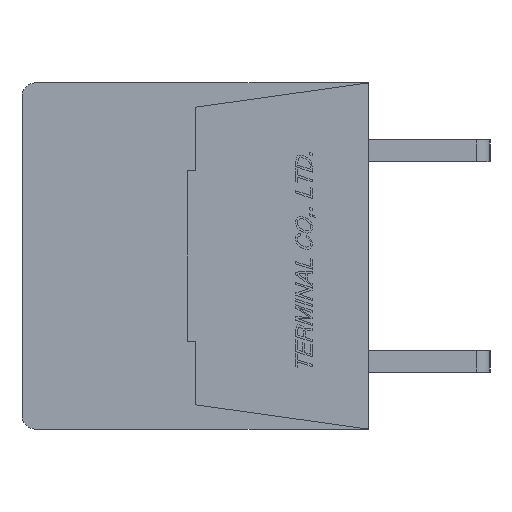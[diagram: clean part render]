
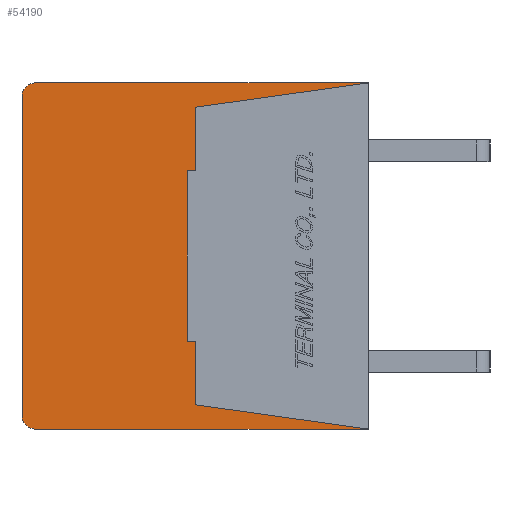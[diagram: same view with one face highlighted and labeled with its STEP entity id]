
A CAD part, left-side view. The second image highlights one B-rep face of the part: STEP entity #54190.
In plain terms, the highlighted planar face has unit normal (-1, 0, 0).
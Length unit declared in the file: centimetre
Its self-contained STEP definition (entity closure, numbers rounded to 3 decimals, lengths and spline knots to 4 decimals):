
#2732=CIRCLE('',#92839,0.05);
#2733=CIRCLE('',#92842,0.05);
#4740=VERTEX_POINT('',#75115);
#4741=VERTEX_POINT('',#75117);
#4742=VERTEX_POINT('',#75121);
#4743=VERTEX_POINT('',#75125);
#4744=VERTEX_POINT('',#75129);
#4745=VERTEX_POINT('',#75133);
#4746=VERTEX_POINT('',#75137);
#4747=VERTEX_POINT('',#75139);
#4748=VERTEX_POINT('',#75141);
#4749=VERTEX_POINT('',#75143);
#4750=VERTEX_POINT('',#75145);
#4751=VERTEX_POINT('',#75147);
#10470=VECTOR('',#62908,1.);
#10474=VECTOR('',#62917,1.);
#10477=VECTOR('',#62925,1.);
#10478=VECTOR('',#62927,1.);
#10479=VECTOR('',#62928,1.);
#10480=VECTOR('',#62929,1.);
#10481=VECTOR('',#62930,1.);
#10482=VECTOR('',#62931,1.);
#10483=VECTOR('',#62932,1.);
#10484=VECTOR('',#62933,1.);
#16834=LINE('',#75116,#10470);
#16838=LINE('',#75126,#10474);
#16841=LINE('',#75134,#10477);
#16842=LINE('',#75136,#10478);
#16843=LINE('',#75138,#10479);
#16844=LINE('',#75140,#10480);
#16845=LINE('',#75142,#10481);
#16846=LINE('',#75144,#10482);
#16847=LINE('',#75146,#10483);
#16848=LINE('',#75148,#10484);
#23930=EDGE_CURVE('',#4741,#4740,#16834,.T.);
#23933=EDGE_CURVE('',#4742,#4740,#2732,.T.);
#23935=EDGE_CURVE('',#4742,#4743,#16838,.T.);
#23937=EDGE_CURVE('',#4744,#4743,#2733,.T.);
#23939=EDGE_CURVE('',#4744,#4745,#16841,.T.);
#23940=EDGE_CURVE('',#4746,#4741,#16842,.T.);
#23941=EDGE_CURVE('',#4745,#4747,#16843,.T.);
#23942=EDGE_CURVE('',#4747,#4748,#16844,.T.);
#23943=EDGE_CURVE('',#4748,#4749,#16845,.T.);
#23944=EDGE_CURVE('',#4749,#4750,#16846,.T.);
#23945=EDGE_CURVE('',#4750,#4751,#16847,.T.);
#23946=EDGE_CURVE('',#4751,#4746,#16848,.T.);
#34883=ORIENTED_EDGE('',*,*,#23940,.T.);
#34884=ORIENTED_EDGE('',*,*,#23930,.T.);
#34885=ORIENTED_EDGE('',*,*,#23933,.F.);
#34886=ORIENTED_EDGE('',*,*,#23935,.T.);
#34887=ORIENTED_EDGE('',*,*,#23937,.F.);
#34888=ORIENTED_EDGE('',*,*,#23939,.T.);
#34889=ORIENTED_EDGE('',*,*,#23941,.T.);
#34890=ORIENTED_EDGE('',*,*,#23942,.T.);
#34891=ORIENTED_EDGE('',*,*,#23943,.T.);
#34892=ORIENTED_EDGE('',*,*,#23944,.T.);
#34893=ORIENTED_EDGE('',*,*,#23945,.T.);
#34894=ORIENTED_EDGE('',*,*,#23946,.T.);
#47176=EDGE_LOOP('',(#34883,#34884,#34885,#34886,#34887,#34888,#34889,#34890,
#34891,#34892,#34893,#34894));
#50756=FACE_BOUND('',#47176,.T.);
#54190=ADVANCED_FACE('',(#50756),#57172,.F.);
#57172=PLANE('',#92844);
#62908=DIRECTION('',(0.,1.,0.));
#62913=DIRECTION('',(1.,0.,0.));
#62914=DIRECTION('',(0.,0.,-0.05));
#62917=DIRECTION('',(0.,0.,-1.));
#62921=DIRECTION('',(1.,0.,0.));
#62922=DIRECTION('',(0.,0.,-0.05));
#62925=DIRECTION('',(0.,-1.,0.));
#62926=DIRECTION('',(1.,0.,0.));
#62927=DIRECTION('',(0.,-0.99,0.139));
#62928=DIRECTION('',(0.,0.99,0.139));
#62929=DIRECTION('',(0.,0.,1.));
#62930=DIRECTION('',(0.,1.,0.));
#62931=DIRECTION('',(0.,0.,1.));
#62932=DIRECTION('',(0.,-1.,0.));
#62933=DIRECTION('',(0.,0.,1.));
#75115=CARTESIAN_POINT('',(-1.,1.23,0.64));
#75116=CARTESIAN_POINT('',(-1.,0.,0.64));
#75117=CARTESIAN_POINT('',(-1.,0.,0.64));
#75121=CARTESIAN_POINT('',(-1.,1.28,0.59));
#75122=CARTESIAN_POINT('',(-1.,1.23,0.59));
#75125=CARTESIAN_POINT('',(-1.,1.28,-0.59));
#75126=CARTESIAN_POINT('',(-1.,1.28,0.59));
#75129=CARTESIAN_POINT('',(-1.,1.23,-0.64));
#75130=CARTESIAN_POINT('',(-1.,1.23,-0.59));
#75133=CARTESIAN_POINT('',(-1.,0.,-0.64));
#75134=CARTESIAN_POINT('',(-1.,1.23,-0.64));
#75135=CARTESIAN_POINT('',(-1.,0.6345,0.));
#75136=CARTESIAN_POINT('',(-1.,0.64,0.55));
#75137=CARTESIAN_POINT('',(-1.,0.64,0.55));
#75138=CARTESIAN_POINT('',(-1.,0.,-0.64));
#75139=CARTESIAN_POINT('',(-1.,0.64,-0.55));
#75140=CARTESIAN_POINT('',(-1.,0.64,-0.55));
#75141=CARTESIAN_POINT('',(-1.,0.64,-0.315));
#75142=CARTESIAN_POINT('',(-1.,0.64,-0.315));
#75143=CARTESIAN_POINT('',(-1.,0.67,-0.315));
#75144=CARTESIAN_POINT('',(-1.,0.67,-0.315));
#75145=CARTESIAN_POINT('',(-1.,0.67,0.315));
#75146=CARTESIAN_POINT('',(-1.,0.67,0.315));
#75147=CARTESIAN_POINT('',(-1.,0.64,0.315));
#75148=CARTESIAN_POINT('',(-1.,0.64,0.315));
#92839=AXIS2_PLACEMENT_3D('',#75122,#62913,#62914);
#92842=AXIS2_PLACEMENT_3D('',#75130,#62921,#62922);
#92844=AXIS2_PLACEMENT_3D('',#75135,#62926,$);
